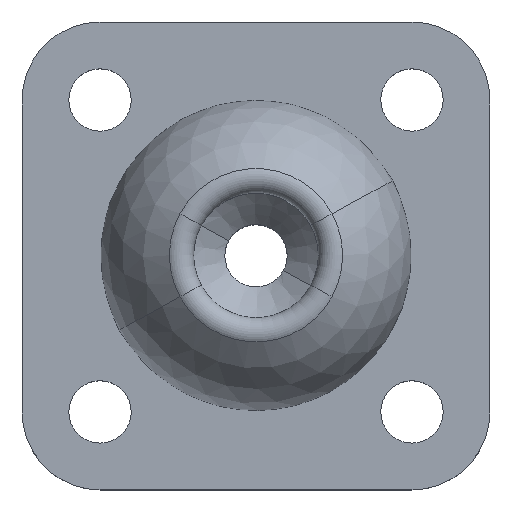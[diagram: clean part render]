
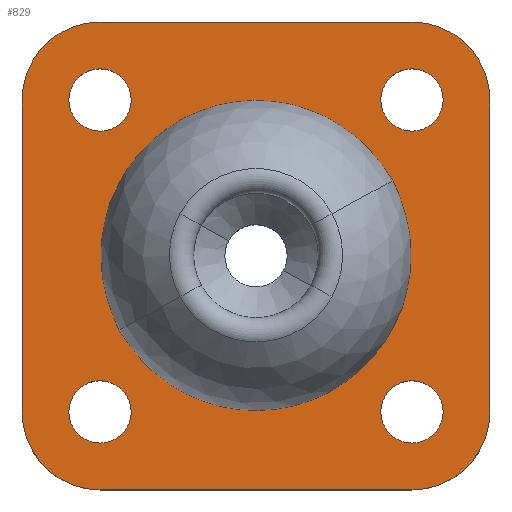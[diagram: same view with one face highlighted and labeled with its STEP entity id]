
A CAD part, top view. The second image highlights one B-rep face of the part: STEP entity #829.
In plain terms, the highlighted planar face has unit normal (0, 0, 1).
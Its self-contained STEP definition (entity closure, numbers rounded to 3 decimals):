
#63=CARTESIAN_POINT('Vertex',(8.245,10.959,3.)) ;
#77=CARTESIAN_POINT('Vertex',(11.755,9.041,3.)) ;
#80=CARTESIAN_POINT('Axis2P3D Location',(10.,10.,3.)) ;
#97=CARTESIAN_POINT('Axis2P3D Location',(10.,10.,3.)) ;
#127=CARTESIAN_POINT('Vertex',(15.,10.,3.)) ;
#130=CARTESIAN_POINT('Line Origine',(15.,0.,3.)) ;
#134=CARTESIAN_POINT('Vertex',(15.,-10.,3.)) ;
#160=CARTESIAN_POINT('Vertex',(10.,15.,3.)) ;
#174=CARTESIAN_POINT('Vertex',(-10.,15.,3.)) ;
#177=CARTESIAN_POINT('Line Origine',(0.,15.,3.)) ;
#194=CARTESIAN_POINT('Line Origine',(-15.,0.,3.)) ;
#198=CARTESIAN_POINT('Vertex',(-15.,10.,3.)) ;
#200=CARTESIAN_POINT('Vertex',(-15.,-10.,3.)) ;
#240=CARTESIAN_POINT('Vertex',(10.,-15.,3.)) ;
#243=CARTESIAN_POINT('Line Origine',(0.,-15.,3.)) ;
#247=CARTESIAN_POINT('Vertex',(-10.,-15.,3.)) ;
#287=CARTESIAN_POINT('Vertex',(9.,0.,3.)) ;
#290=CARTESIAN_POINT('Axis2P3D Location',(0.,0.,3.)) ;
#294=CARTESIAN_POINT('Vertex',(-9.,0.,3.)) ;
#319=CARTESIAN_POINT('Axis2P3D Location',(0.,0.,3.)) ;
#591=CARTESIAN_POINT('Axis2P3D Location',(10.,-10.,3.)) ;
#613=CARTESIAN_POINT('Axis2P3D Location',(-10.,-10.,3.)) ;
#635=CARTESIAN_POINT('Axis2P3D Location',(-10.,10.,3.)) ;
#657=CARTESIAN_POINT('Axis2P3D Location',(10.,10.,3.)) ;
#752=CARTESIAN_POINT('Axis2P3D Location',(0.,0.,3.)) ;
#775=CARTESIAN_POINT('Axis2P3D Location',(10.,-10.,3.)) ;
#779=CARTESIAN_POINT('Vertex',(11.755,-10.959,3.)) ;
#781=CARTESIAN_POINT('Vertex',(8.245,-9.041,3.)) ;
#784=CARTESIAN_POINT('Axis2P3D Location',(10.,-10.,3.)) ;
#793=CARTESIAN_POINT('Axis2P3D Location',(-10.,-10.,3.)) ;
#797=CARTESIAN_POINT('Vertex',(-8.245,-10.959,3.)) ;
#799=CARTESIAN_POINT('Vertex',(-11.755,-9.041,3.)) ;
#802=CARTESIAN_POINT('Axis2P3D Location',(-10.,-10.,3.)) ;
#811=CARTESIAN_POINT('Axis2P3D Location',(-10.,10.,3.)) ;
#815=CARTESIAN_POINT('Vertex',(-8.245,9.041,3.)) ;
#817=CARTESIAN_POINT('Vertex',(-11.755,10.959,3.)) ;
#820=CARTESIAN_POINT('Axis2P3D Location',(-10.,10.,3.)) ;
#81=DIRECTION('Axis2P3D Direction',(0.,-0.,-1.)) ;
#98=DIRECTION('Axis2P3D Direction',(0.,-0.,-1.)) ;
#131=DIRECTION('Vector Direction',(0.,1.,0.)) ;
#178=DIRECTION('Vector Direction',(1.,0.,0.)) ;
#195=DIRECTION('Vector Direction',(0.,-1.,0.)) ;
#244=DIRECTION('Vector Direction',(-1.,0.,0.)) ;
#291=DIRECTION('Axis2P3D Direction',(-0.,0.,1.)) ;
#320=DIRECTION('Axis2P3D Direction',(0.,-0.,1.)) ;
#592=DIRECTION('Axis2P3D Direction',(0.,0.,1.)) ;
#614=DIRECTION('Axis2P3D Direction',(0.,0.,1.)) ;
#636=DIRECTION('Axis2P3D Direction',(0.,0.,1.)) ;
#658=DIRECTION('Axis2P3D Direction',(0.,-0.,1.)) ;
#753=DIRECTION('Axis2P3D Direction',(0.,0.,1.)) ;
#754=DIRECTION('Axis2P3D XDirection',(1.,0.,0.)) ;
#776=DIRECTION('Axis2P3D Direction',(0.,0.,1.)) ;
#785=DIRECTION('Axis2P3D Direction',(0.,0.,1.)) ;
#794=DIRECTION('Axis2P3D Direction',(0.,0.,1.)) ;
#803=DIRECTION('Axis2P3D Direction',(0.,0.,1.)) ;
#812=DIRECTION('Axis2P3D Direction',(0.,0.,1.)) ;
#821=DIRECTION('Axis2P3D Direction',(0.,0.,1.)) ;
#82=AXIS2_PLACEMENT_3D('Circle Axis2P3D',#80,#81,$) ;
#99=AXIS2_PLACEMENT_3D('Circle Axis2P3D',#97,#98,$) ;
#292=AXIS2_PLACEMENT_3D('Circle Axis2P3D',#290,#291,$) ;
#321=AXIS2_PLACEMENT_3D('Circle Axis2P3D',#319,#320,$) ;
#593=AXIS2_PLACEMENT_3D('Circle Axis2P3D',#591,#592,$) ;
#615=AXIS2_PLACEMENT_3D('Circle Axis2P3D',#613,#614,$) ;
#637=AXIS2_PLACEMENT_3D('Circle Axis2P3D',#635,#636,$) ;
#659=AXIS2_PLACEMENT_3D('Circle Axis2P3D',#657,#658,$) ;
#755=AXIS2_PLACEMENT_3D('Plane Axis2P3D',#752,#753,#754) ;
#777=AXIS2_PLACEMENT_3D('Circle Axis2P3D',#775,#776,$) ;
#786=AXIS2_PLACEMENT_3D('Circle Axis2P3D',#784,#785,$) ;
#795=AXIS2_PLACEMENT_3D('Circle Axis2P3D',#793,#794,$) ;
#804=AXIS2_PLACEMENT_3D('Circle Axis2P3D',#802,#803,$) ;
#813=AXIS2_PLACEMENT_3D('Circle Axis2P3D',#811,#812,$) ;
#822=AXIS2_PLACEMENT_3D('Circle Axis2P3D',#820,#821,$) ;
#758=ORIENTED_EDGE('',*,*,#136,.T.) ;
#759=ORIENTED_EDGE('',*,*,#661,.F.) ;
#760=ORIENTED_EDGE('',*,*,#181,.T.) ;
#761=ORIENTED_EDGE('',*,*,#639,.F.) ;
#762=ORIENTED_EDGE('',*,*,#202,.T.) ;
#763=ORIENTED_EDGE('',*,*,#617,.F.) ;
#764=ORIENTED_EDGE('',*,*,#249,.T.) ;
#765=ORIENTED_EDGE('',*,*,#595,.F.) ;
#768=ORIENTED_EDGE('',*,*,#101,.F.) ;
#769=ORIENTED_EDGE('',*,*,#84,.F.) ;
#772=ORIENTED_EDGE('',*,*,#296,.T.) ;
#773=ORIENTED_EDGE('',*,*,#323,.T.) ;
#790=ORIENTED_EDGE('',*,*,#783,.F.) ;
#791=ORIENTED_EDGE('',*,*,#788,.F.) ;
#808=ORIENTED_EDGE('',*,*,#801,.F.) ;
#809=ORIENTED_EDGE('',*,*,#806,.F.) ;
#826=ORIENTED_EDGE('',*,*,#819,.F.) ;
#827=ORIENTED_EDGE('',*,*,#824,.F.) ;
#770=FACE_BOUND('',#767,.T.) ;
#774=FACE_BOUND('',#771,.T.) ;
#792=FACE_BOUND('',#789,.T.) ;
#810=FACE_BOUND('',#807,.T.) ;
#828=FACE_BOUND('',#825,.T.) ;
#132=VECTOR('Line Direction',#131,1.) ;
#179=VECTOR('Line Direction',#178,1.) ;
#196=VECTOR('Line Direction',#195,1.) ;
#245=VECTOR('Line Direction',#244,1.) ;
#829=ADVANCED_FACE('PartBody',(#766,#770,#774,#792,#810,#828),#756,.T.) ;
#83=CIRCLE('generated circle',#82,2.) ;
#100=CIRCLE('generated circle',#99,2.) ;
#293=CIRCLE('generated circle',#292,9.) ;
#322=CIRCLE('generated circle',#321,9.) ;
#594=CIRCLE('generated circle',#593,5.) ;
#616=CIRCLE('generated circle',#615,5.) ;
#638=CIRCLE('generated circle',#637,5.) ;
#660=CIRCLE('generated circle',#659,5.) ;
#778=CIRCLE('generated circle',#777,2.) ;
#787=CIRCLE('generated circle',#786,2.) ;
#796=CIRCLE('generated circle',#795,2.) ;
#805=CIRCLE('generated circle',#804,2.) ;
#814=CIRCLE('generated circle',#813,2.) ;
#823=CIRCLE('generated circle',#822,2.) ;
#84=EDGE_CURVE('',#78,#64,#83,.F.) ;
#101=EDGE_CURVE('',#64,#78,#100,.F.) ;
#136=EDGE_CURVE('',#135,#128,#133,.T.) ;
#181=EDGE_CURVE('',#161,#175,#180,.F.) ;
#202=EDGE_CURVE('',#199,#201,#197,.T.) ;
#249=EDGE_CURVE('',#248,#241,#246,.F.) ;
#296=EDGE_CURVE('',#295,#288,#293,.F.) ;
#323=EDGE_CURVE('',#288,#295,#322,.F.) ;
#595=EDGE_CURVE('',#135,#241,#594,.F.) ;
#617=EDGE_CURVE('',#248,#201,#616,.F.) ;
#639=EDGE_CURVE('',#199,#175,#638,.F.) ;
#661=EDGE_CURVE('',#161,#128,#660,.F.) ;
#783=EDGE_CURVE('',#780,#782,#778,.T.) ;
#788=EDGE_CURVE('',#782,#780,#787,.T.) ;
#801=EDGE_CURVE('',#798,#800,#796,.T.) ;
#806=EDGE_CURVE('',#800,#798,#805,.T.) ;
#819=EDGE_CURVE('',#816,#818,#814,.T.) ;
#824=EDGE_CURVE('',#818,#816,#823,.T.) ;
#757=EDGE_LOOP('',(#758,#759,#760,#761,#762,#763,#764,#765)) ;
#767=EDGE_LOOP('',(#768,#769)) ;
#771=EDGE_LOOP('',(#772,#773)) ;
#789=EDGE_LOOP('',(#790,#791)) ;
#807=EDGE_LOOP('',(#808,#809)) ;
#825=EDGE_LOOP('',(#826,#827)) ;
#766=FACE_OUTER_BOUND('',#757,.T.) ;
#133=LINE('Line',#130,#132) ;
#180=LINE('Line',#177,#179) ;
#197=LINE('Line',#194,#196) ;
#246=LINE('Line',#243,#245) ;
#756=PLANE('',#755) ;
#64=VERTEX_POINT('',#63) ;
#78=VERTEX_POINT('',#77) ;
#128=VERTEX_POINT('',#127) ;
#135=VERTEX_POINT('',#134) ;
#161=VERTEX_POINT('',#160) ;
#175=VERTEX_POINT('',#174) ;
#199=VERTEX_POINT('',#198) ;
#201=VERTEX_POINT('',#200) ;
#241=VERTEX_POINT('',#240) ;
#248=VERTEX_POINT('',#247) ;
#288=VERTEX_POINT('',#287) ;
#295=VERTEX_POINT('',#294) ;
#780=VERTEX_POINT('',#779) ;
#782=VERTEX_POINT('',#781) ;
#798=VERTEX_POINT('',#797) ;
#800=VERTEX_POINT('',#799) ;
#816=VERTEX_POINT('',#815) ;
#818=VERTEX_POINT('',#817) ;
